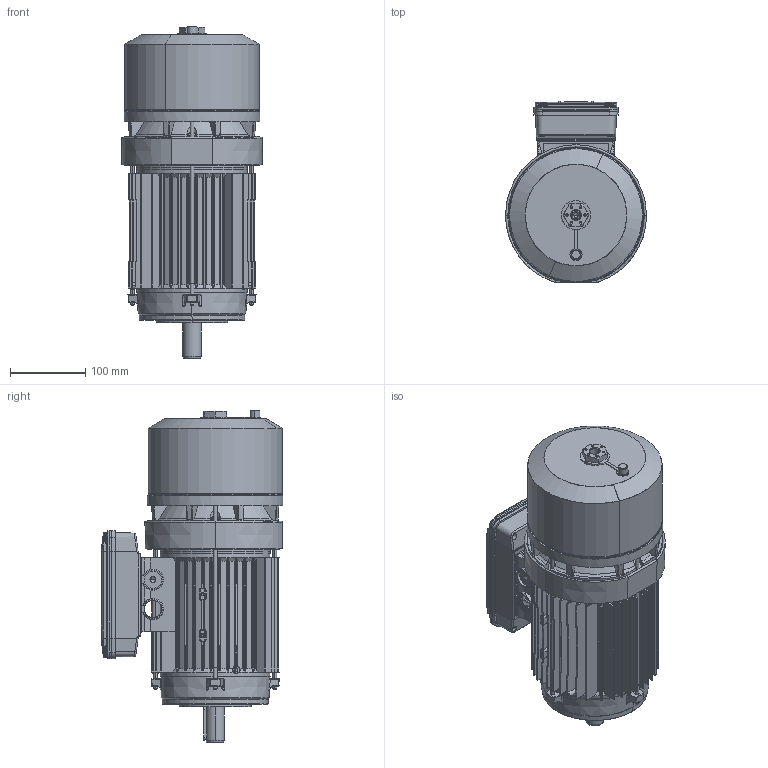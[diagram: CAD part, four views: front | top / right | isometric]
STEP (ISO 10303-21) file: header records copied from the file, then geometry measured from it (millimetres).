
FILE_DESCRIPTION (( 'STEP AP214' ), '1' );
FILE_NAME ('M02FC0011.STEP', '2019-05-21T14:40:14', ( '' ), ( '' ), 'SwSTEP 2.0', 'SolidWorks 2018', '' );
FILE_SCHEMA (( 'AUTOMOTIVE_DESIGN' ));
Length unit declared in the file: millimetre
Products named in the file (17): Scudo Lato Freno BA90 P1 - DDAE0094; Carcassa 90 L B5; M02FC0011; Scatola per Morsettiera Doppia 90-100-112 - Completa; Guarnizione Coperchio Semplice Scatola BA 90 100 112 - DDAL0094; Guarnizione Doppia Scatola Gr. 90 100 112 - DDAM0094; Vite  a testa bombata M4x16; Coperchio per Scatola per Morsettiera Doppia 90-100-112; Scatola per Morsettiera Doppia 90-100-112; O-ring freno BA 90; Vite a Testa Esagona con foro e tappo 71-112 - Modificata; Tirante BA 90L - DBA60094; Scudo a flangia B14 BA-BM 90 - DDAC0094; Chiavetta 90; Albero BA 90 L; Cuffia serie BA 90; Convogliatore con pista d''attrito P2 BA90
Assembly tree (22 placements, depth 3):
  M02FC0011
    Carcassa 90 L B5
    Scudo Lato Freno BA90 P1 - DDAE0094
    Convogliatore con pista d''attrito P2 BA90
    Cuffia serie BA 90
    Albero BA 90 L
    Chiavetta 90
    Scudo a flangia B14 BA-BM 90 - DDAC0094
    Tirante BA 90L - DBA60094  x4
    Vite a Testa Esagona con foro e tappo 71-112 - Modificata
    O-ring freno BA 90
    Scatola per Morsettiera Doppia 90-100-112 - Completa
      Scatola per Morsettiera Doppia 90-100-112
      Coperchio per Scatola per Morsettiera Doppia 90-100-112
      Vite  a testa bombata M4x16  x4
      Guarnizione Doppia Scatola Gr. 90 100 112 - DDAM0094
      Guarnizione Coperchio Semplice Scatola BA 90 100 112 - DDAL0094
Bounding box: 187 x 241.07 x 440.18 mm (x, y, z)
Volume: 1728838.9 mm3; surface area: 1015224.9 mm2
Topology: 25 solids, 25 shells, 3454 faces, 9214 edges, 5808 vertices
Faces by surface type: cylinder 1241, plane 1156, torus 428, cone 387, bspline 232, sphere 10
Entity records: 119578 total; most frequent: CARTESIAN_POINT 40767, ORIENTED_EDGE 17236, DIRECTION 15567, EDGE_CURVE 8618, AXIS2_PLACEMENT_3D 6013, VERTEX_POINT 5484, VECTOR 3541, LINE 3541
